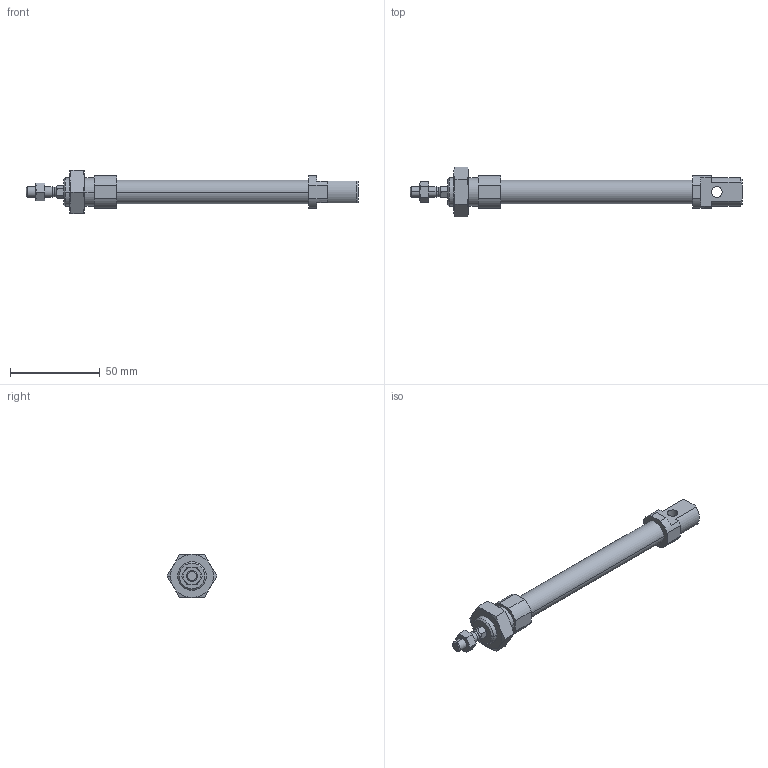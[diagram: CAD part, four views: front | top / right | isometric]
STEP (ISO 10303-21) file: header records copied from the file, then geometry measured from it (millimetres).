
FILE_DESCRIPTION (( 'STEP AP203' ), '1' );
FILE_NAME ('CSMK12-80.STEP', '2020-04-02T10:42:18', ( '' ), ( '' ), 'SwSTEP 2.0', 'SolidWorks 2019', '' );
FILE_SCHEMA (( 'CONFIG_CONTROL_DESIGN' ));
Length unit declared in the file: millimetre
Products named in the file (1): CSMK12-80
Bounding box: 185 x 27.71 x 24 mm (x, y, z)
Volume: 23896.8 mm3; surface area: 17807.3 mm2
Topology: 4 solids, 4 shells, 135 faces, 310 edges, 189 vertices
Faces by surface type: plane 53, cone 50, cylinder 32
Entity records: 4287 total; most frequent: CARTESIAN_POINT 1185, DIRECTION 636, ORIENTED_EDGE 616, EDGE_CURVE 308, AXIS2_PLACEMENT_3D 250, VERTEX_POINT 189, EDGE_LOOP 151, VECTOR 136
